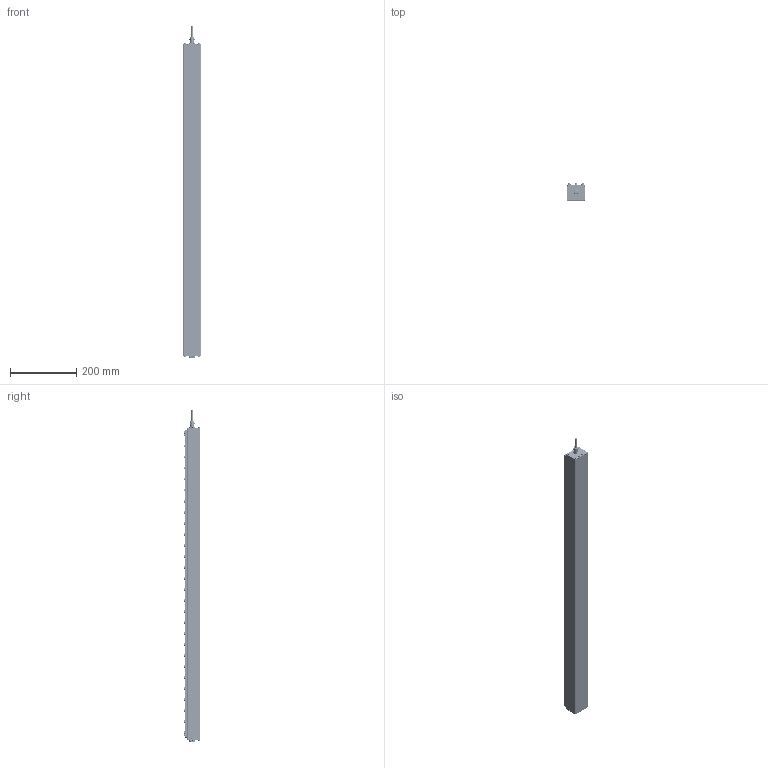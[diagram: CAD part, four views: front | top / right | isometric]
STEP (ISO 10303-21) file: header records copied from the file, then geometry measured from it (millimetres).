
FILE_DESCRIPTION (( 'STEP AP214' ), '1' );
FILE_NAME ('EFFI-FLEX-IP69K-45.STEP', '2021-06-02T08:04:46', ( '' ), ( '' ), 'SwSTEP 2.0', 'SolidWorks 2021', '' );
FILE_SCHEMA (( 'AUTOMOTIVE_DESIGN' ));
Length unit declared in the file: millimetre
Products named in the file (7): 001477; 004326_M5X16; 015793; 004327; effiflex IP69k sans vis; EFFI-FLEX-IP69K-45; 009166_AVEC CABLE
Assembly tree (135 placements, depth 2):
  EFFI-FLEX-IP69K-45
    effiflex IP69k sans vis
    004326_M5X16  x58
    004327  x58
    001477  x16
    009166_AVEC CABLE
    015793
Bounding box: 54 x 50.7 x 1004.1 mm (x, y, z)
Volume: 2404491.6 mm3; surface area: 440554.2 mm2
Topology: 142 solids, 142 shells, 5950 faces, 15601 edges, 10023 vertices
Faces by surface type: cylinder 3811, plane 1158, cone 659, bspline 270, torus 52
Entity records: 37715 total; most frequent: CARTESIAN_POINT 13023, DIRECTION 4767, ORIENTED_EDGE 4174, EDGE_CURVE 2087, AXIS2_PLACEMENT_3D 1913, VERTEX_POINT 1362, EDGE_LOOP 1139, VECTOR 941
